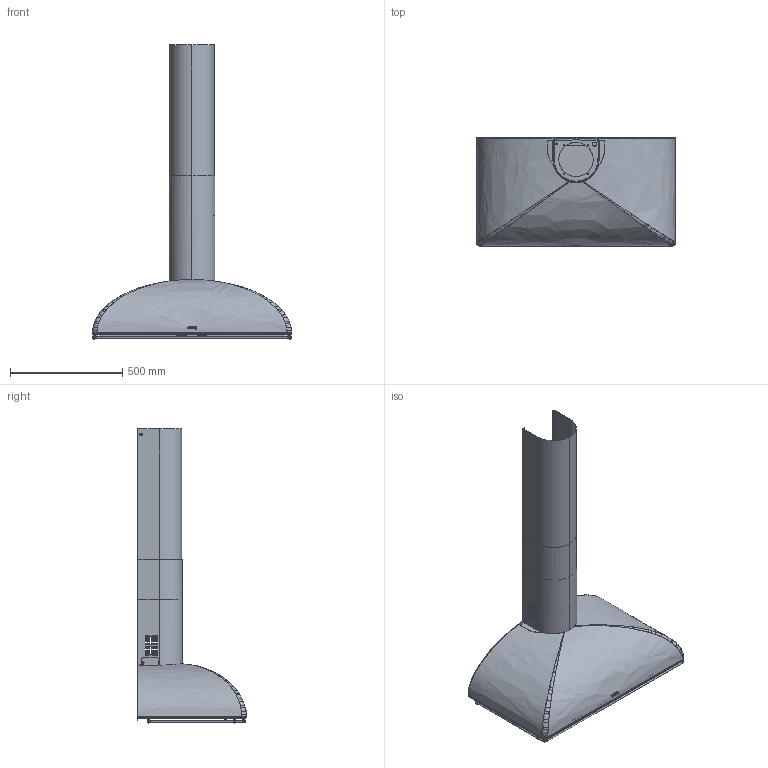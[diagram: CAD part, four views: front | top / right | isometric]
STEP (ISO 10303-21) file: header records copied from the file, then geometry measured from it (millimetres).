
FILE_DESCRIPTION(('CATIA V5 STEP Exchange','CAx-IF Rec.Pracs.--- Model Styling and Organization---1.2---2011-12-15'),'2;1');
FILE_NAME('C:\Users\gianluca.diodoro\Desktop\KS89POE Diodoro.stp','2016-01-04T08:38:11+00:00',('none'),('none'),'CATIA Version 5-6 Release 2014 SP4','CATIA V5 STEP AP214','none');
FILE_SCHEMA(('AUTOMOTIVE_DESIGN { 1 0 10303 214 1 1 1 1 }'));
Length unit declared in the file: millimetre
Products named in the file (14): KSE89POE; cornice laterale; 0 COMPLESSIVO K1VA-2; traversa posteriore kse89; frontalino; camino superiore; camino inferiore; involucro; flangia commutatore; manopola; supporto elettronica KTR; tg01737; Part1; 1700064
Assembly tree (15 placements, depth 2):
  KSE89POE
    cornice laterale
    0 COMPLESSIVO K1VA-2
    traversa posteriore kse89
    frontalino
    camino superiore
    camino inferiore
    involucro
    flangia commutatore
    manopola  x2
    supporto elettronica KTR
    tg01737
    Part1
    1700064  x2
Bounding box: 889.5 x 486.31 x 1312.07 mm (x, y, z)
Volume: 3952624.7 mm3; surface area: 4460886.7 mm2
Topology: 49 solids, 49 shells, 2980 faces, 8209 edges, 5308 vertices
Faces by surface type: cylinder 1283, plane 1138, bspline 252, torus 180, cone 78, sphere 36, extrusion 13
Entity records: 101123 total; most frequent: CARTESIAN_POINT 34810, ORIENTED_EDGE 14924, DIRECTION 10481, EDGE_CURVE 7462, VERTEX_POINT 4887, AXIS2_PLACEMENT_3D 4490, VECTOR 3561, LINE 3548
